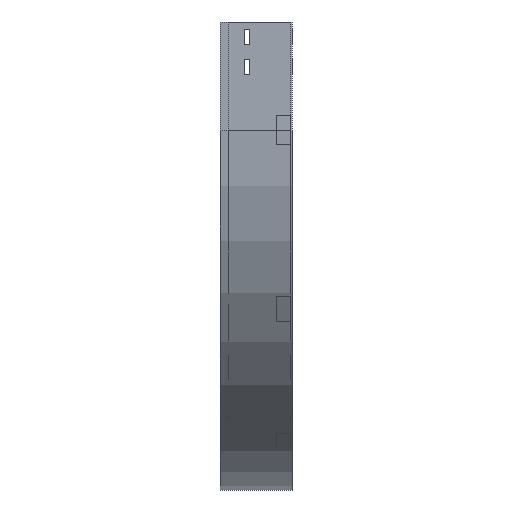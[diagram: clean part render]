
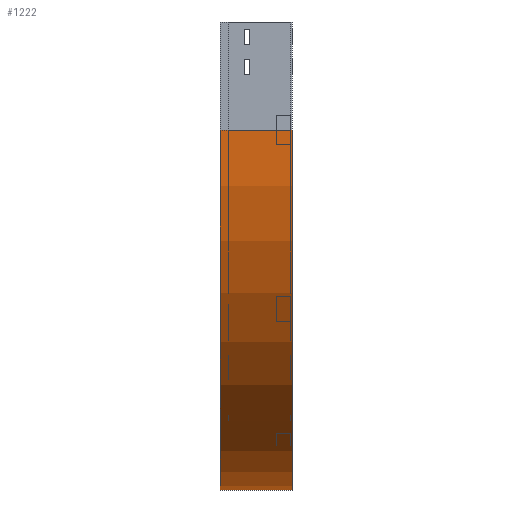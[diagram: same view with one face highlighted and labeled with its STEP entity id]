
A CAD part, left-side view. The second image highlights one B-rep face of the part: STEP entity #1222.
In plain terms, the highlighted cylindrical face has radius 500 mm (diameter 1000 mm), a partial arc.
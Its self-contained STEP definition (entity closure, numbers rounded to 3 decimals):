
#139 = EDGE_CURVE ( 'NONE', #1062, #3000, #3784, .T. ) ;
#683 = AXIS2_PLACEMENT_3D ( 'NONE', #925, #2346, #2636 ) ;
#925 = CARTESIAN_POINT ( 'NONE',  ( 500., 0., -150. ) ) ;
#1020 = CARTESIAN_POINT ( 'NONE',  ( 500., 0., -650. ) ) ;
#1062 = VERTEX_POINT ( 'NONE', #1723 ) ;
#1183 = LINE ( 'NONE', #2382, #1733 ) ;
#1222 = ADVANCED_FACE ( 'NONE', ( #2737 ), #2096, .T. ) ;
#1244 = CARTESIAN_POINT ( 'NONE',  ( 500., 0., -150. ) ) ;
#1290 = EDGE_CURVE ( 'NONE', #1062, #1870, #1183, .T. ) ;
#1316 = LINE ( 'NONE', #1020, #1482 ) ;
#1338 = ORIENTED_EDGE ( 'NONE', *, *, #3182, .F. ) ;
#1418 = AXIS2_PLACEMENT_3D ( 'NONE', #1244, #2077, #1780 ) ;
#1482 = VECTOR ( 'NONE', #3687, 1000. ) ;
#1534 = CIRCLE ( 'NONE', #683, 500. ) ;
#1678 = DIRECTION ( 'NONE',  ( -1., 0., 0. ) ) ;
#1723 = CARTESIAN_POINT ( 'NONE',  ( 0., 100., -150. ) ) ;
#1733 = VECTOR ( 'NONE', #3567, 1000. ) ;
#1758 = ORIENTED_EDGE ( 'NONE', *, *, #1290, .F. ) ;
#1780 = DIRECTION ( 'NONE',  ( 0., 0., -1. ) ) ;
#1797 = EDGE_LOOP ( 'NONE', ( #1338, #1758, #2449, #3710 ) ) ;
#1870 = VERTEX_POINT ( 'NONE', #3222 ) ;
#2077 = DIRECTION ( 'NONE',  ( 0., -1., 0. ) ) ;
#2096 = CYLINDRICAL_SURFACE ( 'NONE', #1418, 500. ) ;
#2102 = AXIS2_PLACEMENT_3D ( 'NONE', #2286, #2270, #1678 ) ;
#2270 = DIRECTION ( 'NONE',  ( 0., -1., 0. ) ) ;
#2286 = CARTESIAN_POINT ( 'NONE',  ( 500., 100., -150. ) ) ;
#2346 = DIRECTION ( 'NONE',  ( 0., -1., 0. ) ) ;
#2380 = CARTESIAN_POINT ( 'NONE',  ( 500., 100., -650. ) ) ;
#2382 = CARTESIAN_POINT ( 'NONE',  ( 0., 0., -150. ) ) ;
#2449 = ORIENTED_EDGE ( 'NONE', *, *, #139, .T. ) ;
#2636 = DIRECTION ( 'NONE',  ( -1., 0., 0. ) ) ;
#2694 = EDGE_CURVE ( 'NONE', #3000, #3270, #1316, .T. ) ;
#2737 = FACE_OUTER_BOUND ( 'NONE', #1797, .T. ) ;
#2987 = CARTESIAN_POINT ( 'NONE',  ( 500., 0., -650. ) ) ;
#3000 = VERTEX_POINT ( 'NONE', #2380 ) ;
#3182 = EDGE_CURVE ( 'NONE', #1870, #3270, #1534, .T. ) ;
#3222 = CARTESIAN_POINT ( 'NONE',  ( 0., 0., -150. ) ) ;
#3270 = VERTEX_POINT ( 'NONE', #2987 ) ;
#3567 = DIRECTION ( 'NONE',  ( 0., -1., 0. ) ) ;
#3687 = DIRECTION ( 'NONE',  ( 0., -1., 0. ) ) ;
#3710 = ORIENTED_EDGE ( 'NONE', *, *, #2694, .T. ) ;
#3784 = CIRCLE ( 'NONE', #2102, 500. ) ;
